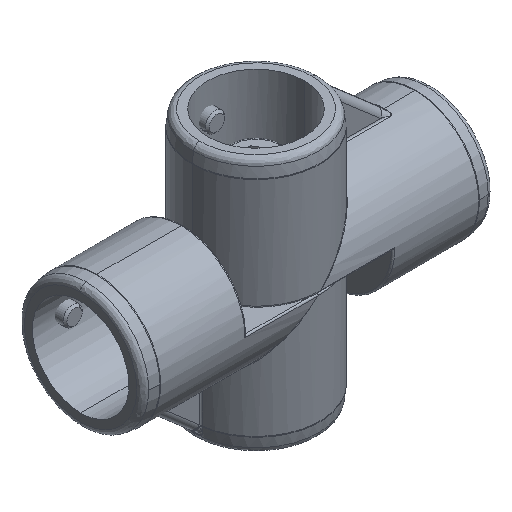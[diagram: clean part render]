
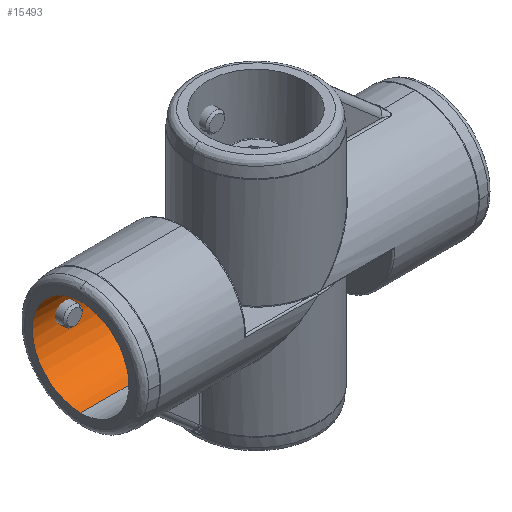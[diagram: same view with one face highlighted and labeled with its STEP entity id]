
A CAD part, isometric view. The second image highlights one B-rep face of the part: STEP entity #15493.
In plain terms, the highlighted cylindrical face has radius 15.15 mm (diameter 30.3 mm), a partial arc.
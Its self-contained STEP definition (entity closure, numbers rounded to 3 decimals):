
#15 = CARTESIAN_POINT ( 'NONE',  ( 7.791, 15.111, 1.091 ) ) ;
#538 = LINE ( 'NONE', #6204, #16431 ) ;
#582 = CARTESIAN_POINT ( 'NONE',  ( 10., 14.949, 2.458 ) ) ;
#592 = B_SPLINE_CURVE_WITH_KNOTS ( 'NONE', 3,
 ( #582, #12343, #8330, #2004, #9738, #8455, #12518, #1946, #4501, #741, #9685, #4446, #16243, #13564, #5764, #9634, #13731, #13517, #4556, #8571, #2056, #5876, #5825, #1890, #13668, #1832, #14926, #7064 ),
 .UNSPECIFIED., .F., .F.,
 ( 4, 2, 2, 2, 2, 2, 2, 2, 2, 2, 2, 2, 2, 4 ),
 ( 0., 0., 0.001, 0.001, 0.002, 0.003, 0.004, 0.004, 0.005, 0.005, 0.006, 0.007, 0.007, 0.008 ),
 .UNSPECIFIED. ) ;
#606 = AXIS2_PLACEMENT_3D ( 'NONE', #5361, #15801, #14479 ) ;
#676 = EDGE_CURVE ( 'NONE', #3512, #3713, #592, .T. ) ;
#741 = CARTESIAN_POINT ( 'NONE',  ( 11.965, 15.076, 1.512 ) ) ;
#781 = DIRECTION ( 'NONE',  ( 1., 0., 0. ) ) ;
#818 = EDGE_CURVE ( 'NONE', #3713, #3512, #2591, .T. ) ;
#882 = CARTESIAN_POINT ( 'NONE',  ( 0., 0., 0. ) ) ;
#892 = CARTESIAN_POINT ( 'NONE',  ( 25., 0., -15.15 ) ) ;
#1161 = CARTESIAN_POINT ( 'NONE',  ( 8.767, 14.999, -2.133 ) ) ;
#1214 = CARTESIAN_POINT ( 'NONE',  ( 8.147, 15.063, -1.624 ) ) ;
#1328 = CARTESIAN_POINT ( 'NONE',  ( 8.761, 14.998, 2.147 ) ) ;
#1688 = AXIS2_PLACEMENT_3D ( 'NONE', #10007, #781, #2036 ) ;
#1832 = CARTESIAN_POINT ( 'NONE',  ( 10.32, 14.952, -2.443 ) ) ;
#1841 = ORIENTED_EDGE ( 'NONE', *, *, #9855, .F. ) ;
#1890 = CARTESIAN_POINT ( 'NONE',  ( 10.793, 14.969, -2.333 ) ) ;
#1946 = CARTESIAN_POINT ( 'NONE',  ( 11.499, 15.024, 1.955 ) ) ;
#2004 = CARTESIAN_POINT ( 'NONE',  ( 10.637, 14.962, 2.38 ) ) ;
#2036 = DIRECTION ( 'NONE',  ( 0., 0., -1. ) ) ;
#2056 = CARTESIAN_POINT ( 'NONE',  ( 11.85, 15.063, -1.627 ) ) ;
#2082 = DIRECTION ( 'NONE',  ( 0., 0., -1. ) ) ;
#2254 = DIRECTION ( 'NONE',  ( 1., 0., 0. ) ) ;
#2406 = CARTESIAN_POINT ( 'NONE',  ( 8.487, 15.024, 1.964 ) ) ;
#2470 = CARTESIAN_POINT ( 'NONE',  ( 7.791, 15.111, -1.091 ) ) ;
#2591 = B_SPLINE_CURVE_WITH_KNOTS ( 'NONE', 3,
 ( #14308, #5020, #15507, #4960, #7654, #16870, #1161, #10280, #14076, #1214, #6345, #6501, #2470, #3839, #15392, #10345, #11594, #15450, #7822, #15626, #11759, #15, #11700, #9148, #11542, #2406, #1328, #3784, #10451, #3715 ),
 .UNSPECIFIED., .F., .F.,
 ( 4, 2, 2, 2, 2, 2, 2, 2, 2, 2, 2, 2, 2, 2, 4 ),
 ( 0.008, 0.008, 0.009, 0.009, 0.01, 0.01, 0.011, 0.011, 0.012, 0.012, 0.013, 0.013, 0.013, 0.014, 0.015 ),
 .UNSPECIFIED. ) ;
#2656 = ORIENTED_EDGE ( 'NONE', *, *, #8813, .T. ) ;
#2669 = VERTEX_POINT ( 'NONE', #6135 ) ;
#3512 = VERTEX_POINT ( 'NONE', #8839 ) ;
#3713 = VERTEX_POINT ( 'NONE', #6720 ) ;
#3715 = CARTESIAN_POINT ( 'NONE',  ( 10., 14.949, 2.458 ) ) ;
#3784 = CARTESIAN_POINT ( 'NONE',  ( 9.352, 14.96, 2.393 ) ) ;
#3839 = CARTESIAN_POINT ( 'NONE',  ( 7.668, 15.13, -0.794 ) ) ;
#3854 = CARTESIAN_POINT ( 'NONE',  ( 0., 0., -15.15 ) ) ;
#4017 = ORIENTED_EDGE ( 'NONE', *, *, #8271, .F. ) ;
#4369 = FACE_BOUND ( 'NONE', #10094, .T. ) ;
#4446 = CARTESIAN_POINT ( 'NONE',  ( 12.393, 15.139, 0.647 ) ) ;
#4469 = CIRCLE ( 'NONE', #606, 15.15 ) ;
#4501 = CARTESIAN_POINT ( 'NONE',  ( 11.625, 15.037, 1.852 ) ) ;
#4556 = CARTESIAN_POINT ( 'NONE',  ( 12.133, 15.1, -1.234 ) ) ;
#4902 = DIRECTION ( 'NONE',  ( 1., 0., 0. ) ) ;
#4960 = CARTESIAN_POINT ( 'NONE',  ( 9.361, 14.962, -2.379 ) ) ;
#5020 = CARTESIAN_POINT ( 'NONE',  ( 9.839, 14.949, -2.459 ) ) ;
#5361 = CARTESIAN_POINT ( 'NONE',  ( 25., 0., 0. ) ) ;
#5387 = AXIS2_PLACEMENT_3D ( 'NONE', #882, #16371, #2082 ) ;
#5764 = CARTESIAN_POINT ( 'NONE',  ( 12.442, 15.147, -0.324 ) ) ;
#5825 = CARTESIAN_POINT ( 'NONE',  ( 11.237, 14.997, -2.149 ) ) ;
#5876 = CARTESIAN_POINT ( 'NONE',  ( 11.511, 15.024, -1.966 ) ) ;
#5919 = VECTOR ( 'NONE', #4902, 1000. ) ;
#6135 = CARTESIAN_POINT ( 'NONE',  ( 0., 0., -15.15 ) ) ;
#6204 = CARTESIAN_POINT ( 'NONE',  ( 0., 0., 15.15 ) ) ;
#6345 = CARTESIAN_POINT ( 'NONE',  ( 8.046, 15.076, -1.501 ) ) ;
#6501 = CARTESIAN_POINT ( 'NONE',  ( 7.868, 15.1, -1.235 ) ) ;
#6720 = CARTESIAN_POINT ( 'NONE',  ( 10., 14.949, -2.459 ) ) ;
#7064 = CARTESIAN_POINT ( 'NONE',  ( 10., 14.949, -2.459 ) ) ;
#7654 = CARTESIAN_POINT ( 'NONE',  ( 9.208, 14.969, -2.333 ) ) ;
#7800 = CIRCLE ( 'NONE', #5387, 15.15 ) ;
#7822 = CARTESIAN_POINT ( 'NONE',  ( 7.557, 15.147, 0.323 ) ) ;
#7867 = CYLINDRICAL_SURFACE ( 'NONE', #1688, 15.15 ) ;
#8271 = EDGE_CURVE ( 'NONE', #2669, #12004, #7800, .T. ) ;
#8330 = CARTESIAN_POINT ( 'NONE',  ( 10.323, 14.952, 2.443 ) ) ;
#8335 = CARTESIAN_POINT ( 'NONE',  ( 0., 0., 15.15 ) ) ;
#8455 = CARTESIAN_POINT ( 'NONE',  ( 11.091, 14.988, 2.209 ) ) ;
#8571 = CARTESIAN_POINT ( 'NONE',  ( 11.954, 15.076, -1.501 ) ) ;
#8692 = FACE_OUTER_BOUND ( 'NONE', #14563, .T. ) ;
#8813 = EDGE_CURVE ( 'NONE', #2669, #9989, #12881, .T. ) ;
#8839 = CARTESIAN_POINT ( 'NONE',  ( 10., 14.949, 2.458 ) ) ;
#9001 = EDGE_CURVE ( 'NONE', #12725, #9989, #4469, .T. ) ;
#9148 = CARTESIAN_POINT ( 'NONE',  ( 8.044, 15.076, 1.499 ) ) ;
#9634 = CARTESIAN_POINT ( 'NONE',  ( 12.379, 15.137, -0.639 ) ) ;
#9685 = CARTESIAN_POINT ( 'NONE',  ( 12.148, 15.102, 1.238 ) ) ;
#9738 = CARTESIAN_POINT ( 'NONE',  ( 10.793, 14.969, 2.333 ) ) ;
#9855 = EDGE_CURVE ( 'NONE', #12004, #12725, #538, .T. ) ;
#9989 = VERTEX_POINT ( 'NONE', #892 ) ;
#10007 = CARTESIAN_POINT ( 'NONE',  ( 0., 0., 0. ) ) ;
#10094 = EDGE_LOOP ( 'NONE', ( #11153, #14002 ) ) ;
#10280 = CARTESIAN_POINT ( 'NONE',  ( 8.501, 15.024, -1.955 ) ) ;
#10345 = CARTESIAN_POINT ( 'NONE',  ( 7.558, 15.147, -0.325 ) ) ;
#10451 = CARTESIAN_POINT ( 'NONE',  ( 9.675, 14.949, 2.458 ) ) ;
#11153 = ORIENTED_EDGE ( 'NONE', *, *, #818, .T. ) ;
#11542 = CARTESIAN_POINT ( 'NONE',  ( 8.148, 15.063, 1.625 ) ) ;
#11594 = CARTESIAN_POINT ( 'NONE',  ( 7.541, 15.15, -0.163 ) ) ;
#11700 = CARTESIAN_POINT ( 'NONE',  ( 7.866, 15.1, 1.232 ) ) ;
#11759 = CARTESIAN_POINT ( 'NONE',  ( 7.667, 15.13, 0.793 ) ) ;
#12004 = VERTEX_POINT ( 'NONE', #8335 ) ;
#12343 = CARTESIAN_POINT ( 'NONE',  ( 10.163, 14.949, 2.458 ) ) ;
#12518 = CARTESIAN_POINT ( 'NONE',  ( 11.232, 14.999, 2.134 ) ) ;
#12725 = VERTEX_POINT ( 'NONE', #15678 ) ;
#12881 = LINE ( 'NONE', #3854, #5919 ) ;
#13517 = CARTESIAN_POINT ( 'NONE',  ( 12.208, 15.111, -1.093 ) ) ;
#13564 = CARTESIAN_POINT ( 'NONE',  ( 12.458, 15.15, -0.165 ) ) ;
#13648 = ORIENTED_EDGE ( 'NONE', *, *, #9001, .F. ) ;
#13668 = CARTESIAN_POINT ( 'NONE',  ( 10.638, 14.962, -2.38 ) ) ;
#13731 = CARTESIAN_POINT ( 'NONE',  ( 12.332, 15.13, -0.795 ) ) ;
#14002 = ORIENTED_EDGE ( 'NONE', *, *, #676, .T. ) ;
#14076 = CARTESIAN_POINT ( 'NONE',  ( 8.376, 15.037, -1.853 ) ) ;
#14308 = CARTESIAN_POINT ( 'NONE',  ( 10., 14.949, -2.459 ) ) ;
#14479 = DIRECTION ( 'NONE',  ( 0., 0., -1. ) ) ;
#14563 = EDGE_LOOP ( 'NONE', ( #1841, #4017, #2656, #13648 ) ) ;
#14926 = CARTESIAN_POINT ( 'NONE',  ( 10.161, 14.949, -2.459 ) ) ;
#15392 = CARTESIAN_POINT ( 'NONE',  ( 7.621, 15.137, -0.641 ) ) ;
#15450 = CARTESIAN_POINT ( 'NONE',  ( 7.542, 15.15, 0.163 ) ) ;
#15493 = ADVANCED_FACE ( 'NONE', ( #8692, #4369 ), #7867, .F. ) ;
#15507 = CARTESIAN_POINT ( 'NONE',  ( 9.676, 14.952, -2.442 ) ) ;
#15626 = CARTESIAN_POINT ( 'NONE',  ( 7.62, 15.137, 0.637 ) ) ;
#15678 = CARTESIAN_POINT ( 'NONE',  ( 25., 0., 15.15 ) ) ;
#15801 = DIRECTION ( 'NONE',  ( -1., 0., 0. ) ) ;
#16243 = CARTESIAN_POINT ( 'NONE',  ( 12.459, 15.15, 0.324 ) ) ;
#16371 = DIRECTION ( 'NONE',  ( 1., 0., 0. ) ) ;
#16431 = VECTOR ( 'NONE', #2254, 1000. ) ;
#16870 = CARTESIAN_POINT ( 'NONE',  ( 8.91, 14.988, -2.21 ) ) ;
